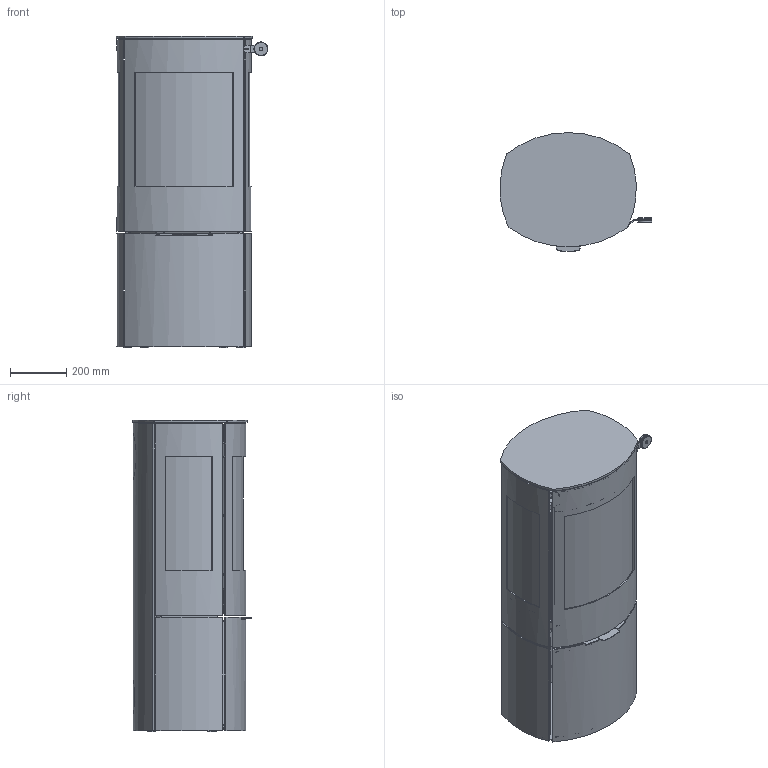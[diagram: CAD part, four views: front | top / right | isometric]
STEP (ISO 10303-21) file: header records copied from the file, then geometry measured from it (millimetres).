
FILE_DESCRIPTION(/* description */ (''),/* implementation_level */ '2;1');
FILE_NAME(/* name */ '14-0431 Caro 110 Classic 3G BO.stp',/* time_stamp */ '2025-02-15T10:00:01+01:00',/* author */ ('pch'),/* organization */ (''),/* preprocessor_version */ 'ST-DEVELOPER v20',/* originating_system */ 'Autodesk Inventor 2025',/* authorisation */ '');
FILE_SCHEMA (('AUTOMOTIVE_DESIGN { 1 0 10303 214 3 1 1 }'));
Products named in the file (1): 14-0431 Caro 110 Classic 3G BO
Bounding box: 541.12 x 421.74 x 1111 mm (x, y, z)
Volume: 18871014.8 mm3; surface area: 7956161.9 mm2
Topology: 19 solids, 19 shells, 4487 faces, 12472 edges, 7831 vertices
Faces by surface type: plane 2446, cylinder 1473, bspline 315, sphere 100, cone 90, torus 63
Full cylindrical faces by diameter (mm): 3.5 x19, 4.2 x59, 5 x16, 5.5 x6, 6 x4, 7 x5, 8 x6, 9.5 x1, 10 x6, 12.5 x1, 20 x2, 50 x2, 160 x1
Entity records: 165494 total; most frequent: CARTESIAN_POINT 45028, ORIENTED_EDGE 24940, DIRECTION 23527, EDGE_CURVE 12470, LINE 8379, VECTOR 8379, VERTEX_POINT 7831, AXIS2_PLACEMENT_3D 7574
